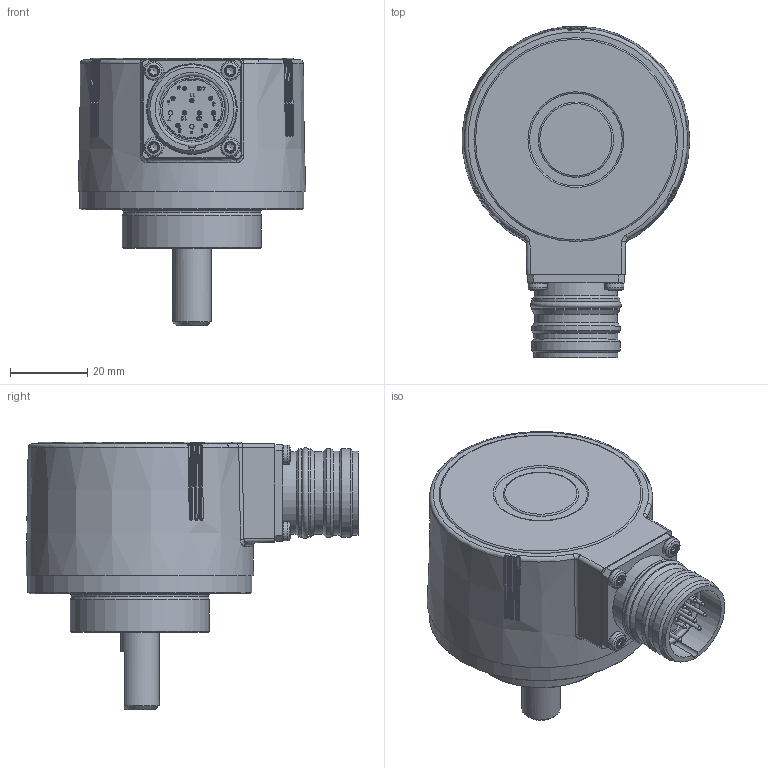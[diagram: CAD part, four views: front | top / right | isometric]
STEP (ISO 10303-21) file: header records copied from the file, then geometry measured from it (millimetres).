
FILE_DESCRIPTION(/* description */ ('Unknown'),/* implementation_level */ '2;1');
FILE_NAME(/* name */ 'EN580E.ML-SC10.GB1x.xxxxx',/* time_stamp */ '2023-09-28T08:31:54+02:00',/* author */ ('Unknown'),/* organization */ ('Baumer'),/* preprocessor_version */ 'ST-DEVELOPER v16.7',/* originating_system */ 'Solid Edge',/* authorisation */ 'Unknown');
FILE_SCHEMA (('AUTOMOTIVE_DESIGN {1 0 10303 214 3 1 1}'));
Length unit declared in the file: millimetre
Products named in the file (1): EN580E.ML-SC10.GB1x.xxxxx
Bounding box: 58.94 x 85.98 x 69.25 mm (x, y, z)
Surface area: 19135.8 mm2 (no closed solid volume)
Topology: 0 solids, 1 shells, 634 faces, 1587 edges, 1021 vertices
Faces by surface type: plane 194, bspline 183, cylinder 182, cone 45, torus 26, sphere 4
Full cylindrical faces by diameter (mm): 1.016 x10, 1.1 x12, 2.459 x3, 3.242 x3, 5 x4, 10 x1, 13.6 x1, 16.2 x1, 20 x1, 20.5 x2, 21.4 x2, 21.74 x2, 22.6 x1, 22.85 x2, 23 x2, 26 x1, 36 x2, 57.975 x1
Entity records: 25996 total; most frequent: CARTESIAN_POINT 13121, ORIENTED_EDGE 2850, DIRECTION 2079, EDGE_CURVE 1429, VERTEX_POINT 986, AXIS2_PLACEMENT_3D 840, FACE_BOUND 825, EDGE_LOOP 815
